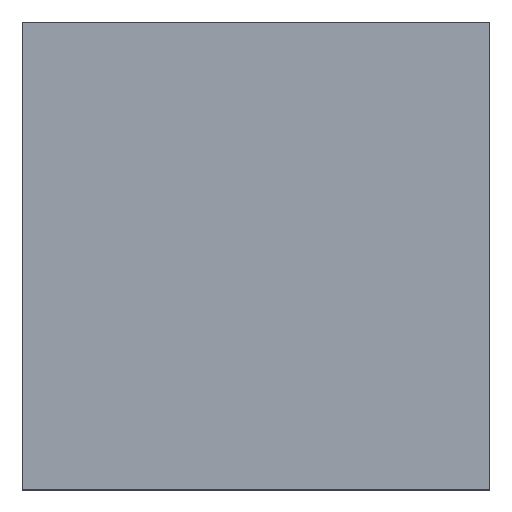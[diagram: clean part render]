
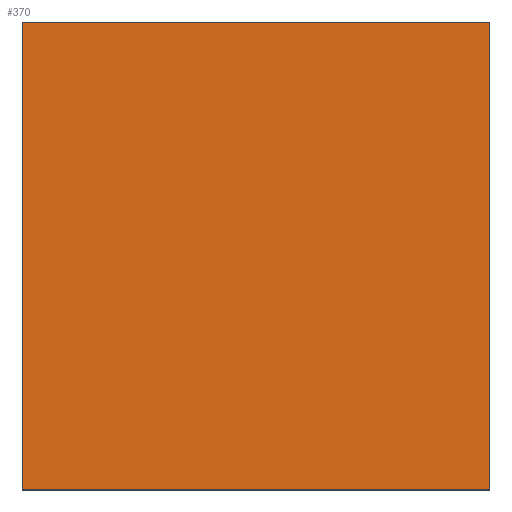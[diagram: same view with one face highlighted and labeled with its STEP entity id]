
A CAD part, top view. The second image highlights one B-rep face of the part: STEP entity #370.
In plain terms, the highlighted planar face has unit normal (0, 0, 1).
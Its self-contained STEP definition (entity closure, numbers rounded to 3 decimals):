
#11 = VECTOR ( 'NONE', #132, 1000. ) ;
#24 = LINE ( 'NONE', #322, #354 ) ;
#61 = VERTEX_POINT ( 'NONE', #373 ) ;
#64 = LINE ( 'NONE', #762, #11 ) ;
#76 = FACE_OUTER_BOUND ( 'NONE', #218, .T. ) ;
#91 = DIRECTION ( 'NONE',  ( 0., 0., 1. ) ) ;
#93 = ORIENTED_EDGE ( 'NONE', *, *, #596, .T. ) ;
#132 = DIRECTION ( 'NONE',  ( 1., 0., 0. ) ) ;
#188 = VECTOR ( 'NONE', #698, 1000. ) ;
#204 = EDGE_CURVE ( 'NONE', #61, #662, #407, .T. ) ;
#218 = EDGE_LOOP ( 'NONE', ( #876, #716, #93, #419 ) ) ;
#231 = DIRECTION ( 'NONE',  ( 1., 0., 0. ) ) ;
#237 = EDGE_CURVE ( 'NONE', #888, #588, #64, .T. ) ;
#244 = DIRECTION ( 'NONE',  ( 0., 1., 0. ) ) ;
#246 = EDGE_CURVE ( 'NONE', #662, #888, #693, .T. ) ;
#275 = CARTESIAN_POINT ( 'NONE',  ( -17.5, 17.5, 10. ) ) ;
#322 = CARTESIAN_POINT ( 'NONE',  ( 17.5, 17.5, 10. ) ) ;
#354 = VECTOR ( 'NONE', #244, 1000. ) ;
#370 = ADVANCED_FACE ( 'NONE', ( #76 ), #577, .T. ) ;
#373 = CARTESIAN_POINT ( 'NONE',  ( 17.5, 17.5, 10. ) ) ;
#403 = CARTESIAN_POINT ( 'NONE',  ( -17.5, 17.5, 10. ) ) ;
#407 = LINE ( 'NONE', #275, #188 ) ;
#419 = ORIENTED_EDGE ( 'NONE', *, *, #204, .T. ) ;
#501 = CARTESIAN_POINT ( 'NONE',  ( 0., 0., 10. ) ) ;
#529 = VECTOR ( 'NONE', #826, 1000. ) ;
#534 = CARTESIAN_POINT ( 'NONE',  ( 17.5, -17.5, 10. ) ) ;
#577 = PLANE ( 'NONE',  #839 ) ;
#588 = VERTEX_POINT ( 'NONE', #534 ) ;
#596 = EDGE_CURVE ( 'NONE', #588, #61, #24, .T. ) ;
#662 = VERTEX_POINT ( 'NONE', #820 ) ;
#693 = LINE ( 'NONE', #403, #529 ) ;
#698 = DIRECTION ( 'NONE',  ( -1., 0., 0. ) ) ;
#716 = ORIENTED_EDGE ( 'NONE', *, *, #237, .T. ) ;
#762 = CARTESIAN_POINT ( 'NONE',  ( -17.5, -17.5, 10. ) ) ;
#820 = CARTESIAN_POINT ( 'NONE',  ( -17.5, 17.5, 10. ) ) ;
#826 = DIRECTION ( 'NONE',  ( 0., -1., 0. ) ) ;
#839 = AXIS2_PLACEMENT_3D ( 'NONE', #501, #91, #231 ) ;
#860 = CARTESIAN_POINT ( 'NONE',  ( -17.5, -17.5, 10. ) ) ;
#876 = ORIENTED_EDGE ( 'NONE', *, *, #246, .T. ) ;
#888 = VERTEX_POINT ( 'NONE', #860 ) ;
